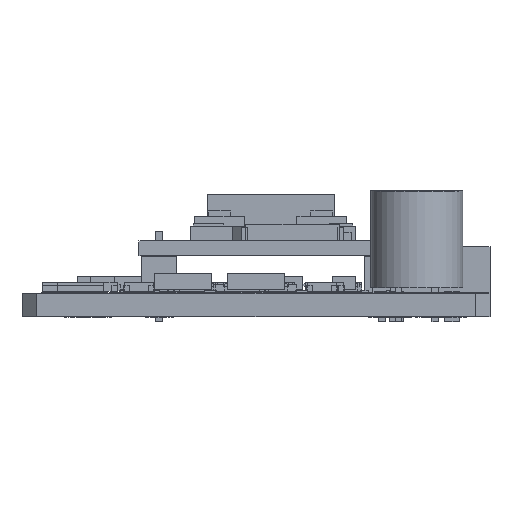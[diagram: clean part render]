
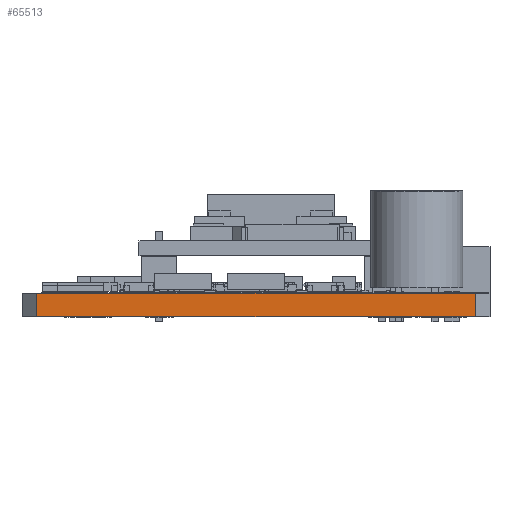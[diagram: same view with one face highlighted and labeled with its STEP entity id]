
A CAD part, front view. The second image highlights one B-rep face of the part: STEP entity #65513.
In plain terms, the highlighted planar face has unit normal (0, -1, 0).
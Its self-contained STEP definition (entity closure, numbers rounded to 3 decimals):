
#5502=PLANE('',#71016);
#9312=FACE_OUTER_BOUND('',#13691,.T.);
#13691=EDGE_LOOP('',(#56233,#56234,#56235,#56236));
#20328=LINE('',#102077,#27767);
#20334=LINE('',#102157,#27773);
#20336=LINE('',#102161,#27775);
#20345=LINE('',#102246,#27784);
#27767=VECTOR('',#83054,10.);
#27773=VECTOR('',#83130,10.);
#27775=VECTOR('',#83134,10.);
#27784=VECTOR('',#83213,10.);
#34359=VERTEX_POINT('',#102074);
#34360=VERTEX_POINT('',#102076);
#34399=VERTEX_POINT('',#102156);
#34400=VERTEX_POINT('',#102160);
#41980=EDGE_CURVE('',#34360,#34359,#20328,.T.);
#42020=EDGE_CURVE('',#34360,#34399,#20334,.T.);
#42022=EDGE_CURVE('',#34399,#34400,#20336,.T.);
#42065=EDGE_CURVE('',#34359,#34400,#20345,.T.);
#56233=ORIENTED_EDGE('',*,*,#41980,.T.);
#56234=ORIENTED_EDGE('',*,*,#42065,.T.);
#56235=ORIENTED_EDGE('',*,*,#42022,.F.);
#56236=ORIENTED_EDGE('',*,*,#42020,.F.);
#65513=ADVANCED_FACE('',(#9312),#5502,.T.);
#71016=AXIS2_PLACEMENT_3D('',#102245,#83211,#83212);
#83054=DIRECTION('',(1.,0.,0.));
#83130=DIRECTION('',(0.,0.,1.));
#83134=DIRECTION('',(1.,0.,0.));
#83211=DIRECTION('center_axis',(0.,-1.,0.));
#83212=DIRECTION('ref_axis',(1.,0.,0.));
#83213=DIRECTION('',(0.,0.,1.));
#102074=CARTESIAN_POINT('',(37.5,-13.,6.));
#102076=CARTESIAN_POINT('',(7.5,-13.,6.));
#102077=CARTESIAN_POINT('',(7.5,-13.,6.));
#102156=CARTESIAN_POINT('',(7.5,-13.,7.6));
#102157=CARTESIAN_POINT('',(7.5,-13.,6.));
#102160=CARTESIAN_POINT('',(37.5,-13.,7.6));
#102161=CARTESIAN_POINT('',(7.5,-13.,7.6));
#102245=CARTESIAN_POINT('Origin',(8.5,-13.,6.));
#102246=CARTESIAN_POINT('',(37.5,-13.,6.));
